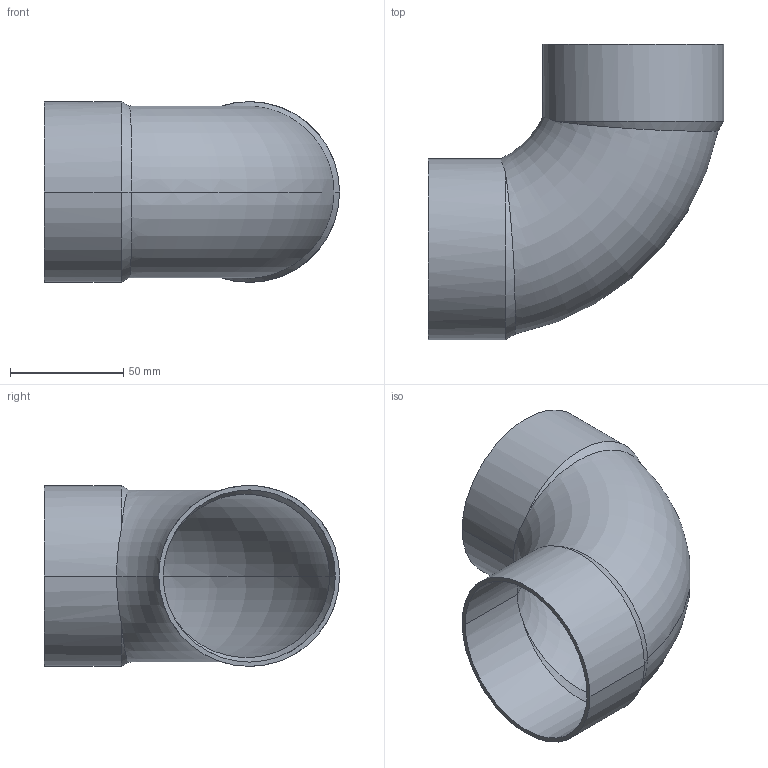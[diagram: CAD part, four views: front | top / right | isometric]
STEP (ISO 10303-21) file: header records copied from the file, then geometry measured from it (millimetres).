
FILE_DESCRIPTION((''),'2;1');
FILE_NAME('G:\SANHA-TERNAT\Technik\Deckel\UUU\Producttek\1509076\1509076(0).stp','2007-07-25T15:49:48',('vdvijverd'),(''),'Autodesk Inventor 8','Autodesk Inventor 8','');
FILE_SCHEMA(('AUTOMOTIVE_DESIGN { 1 0 10303 214 1 1 1 1 }'));
Length unit declared in the file: millimetre
Products named in the file (1): 1509076(0)
Bounding box: 130.45 x 130.45 x 79.9 mm (x, y, z)
Volume: 70604.5 mm3; surface area: 73354.7 mm2
Topology: 1 solids, 1 shells, 22 faces, 53 edges, 33 vertices
Faces by surface type: bspline 9, torus 4, cone 4, cylinder 4, plane 1
Entity records: 917 total; most frequent: CARTESIAN_POINT 432, ORIENTED_EDGE 106, DIRECTION 82, EDGE_CURVE 53, AXIS2_PLACEMENT_3D 35, VERTEX_POINT 33, EDGE_LOOP 24, FACE_OUTER_BOUND 22
